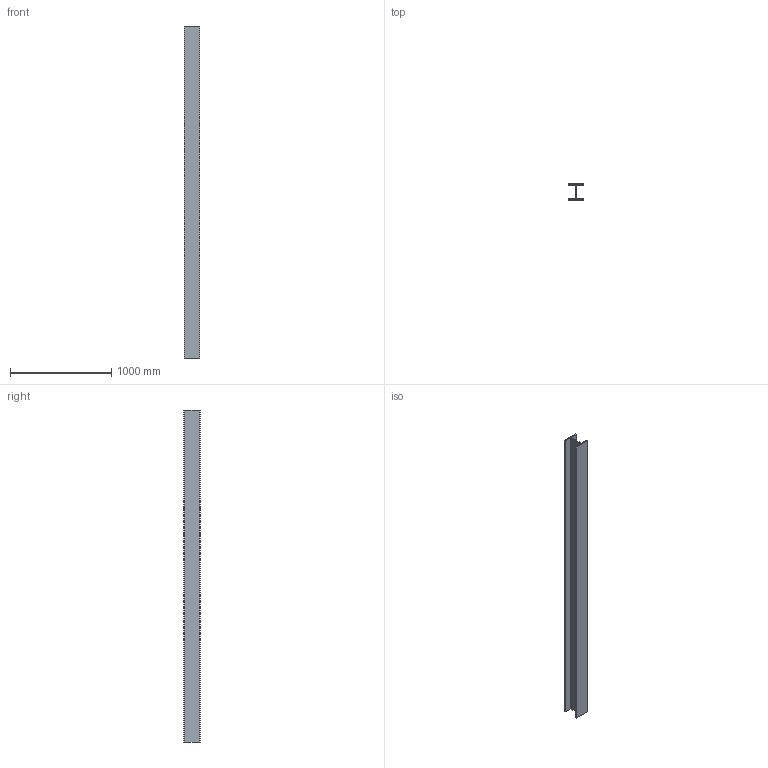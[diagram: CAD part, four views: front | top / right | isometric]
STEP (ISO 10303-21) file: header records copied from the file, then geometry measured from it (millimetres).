
FILE_DESCRIPTION(('Open CASCADE Model'),'2;1');
FILE_NAME('Open CASCADE Shape Model','2026-09-19T12:55:11',('Author'),( 'Open CASCADE'),'Open CASCADE STEP processor 7.9','Open CASCADE 7.9' ,'Unknown');
FILE_SCHEMA(('AUTOMOTIVE_DESIGN { 1 0 10303 214 1 1 1 1 }'));
Length unit declared in the file: millimetre
Products named in the file (1): Open CASCADE STEP translator 7.9 34
Bounding box: 154 x 162 x 3275 mm (x, y, z)
Volume: 15382937 mm3; surface area: 3034839.2 mm2
Topology: 1 solids, 1 shells, 14 faces, 36 edges, 24 vertices
Faces by surface type: plane 14
Entity records: 898 total; most frequent: CARTESIAN_POINT 147, DIRECTION 138, LINE 108, VECTOR 108, ORIENTED_EDGE 72, PCURVE 72, DEFINITIONAL_REPRESENTATION 72, EDGE_CURVE 36
